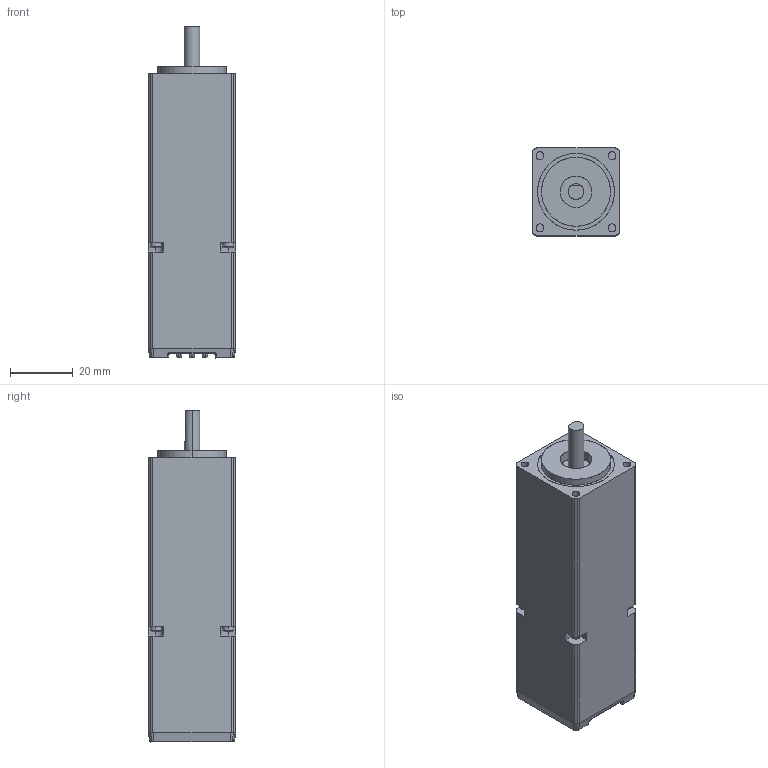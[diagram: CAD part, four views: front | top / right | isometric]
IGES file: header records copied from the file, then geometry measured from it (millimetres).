
Start section: SolidWorks IGES file using analytic representation for surfaces
Global section: file name: C:\Documents and Settings\6681\デスクトップ\Web用3Dデータ2\SSA-TR-28D3A.IGS; native system: SolidWorks 2010; preprocessor: SolidWorks 2010; author: 6681; date: 130711.201643; units: millimetre
Bounding box: 28 x 28 x 105.9 mm (x, y, z)
Surface area: 13129.9 mm2 (no closed solid volume)
Topology: 0 solids, 0 shells, 190 faces, 2094 edges, 2094 vertices
Faces by surface type: bspline 104, revolution 86
